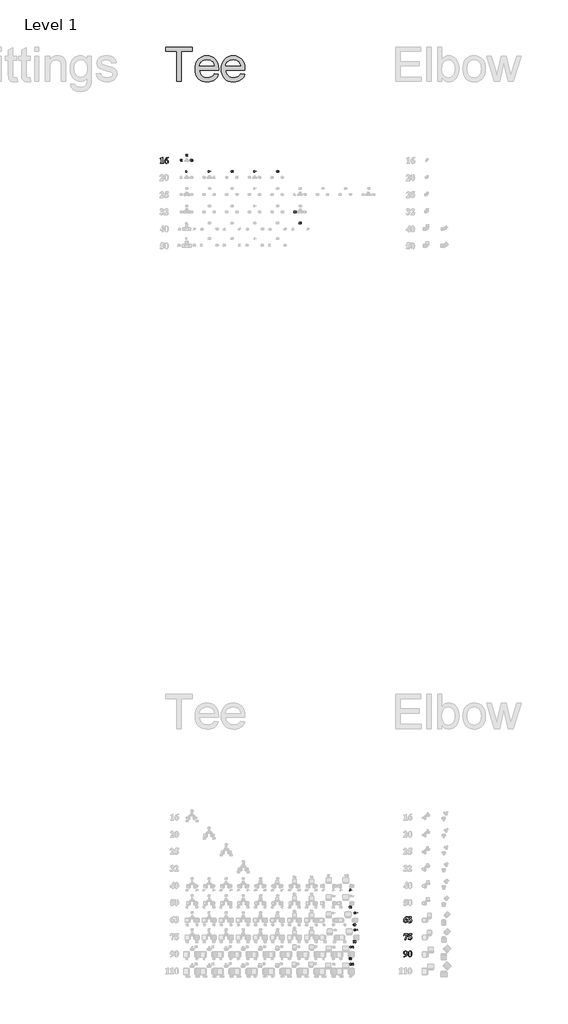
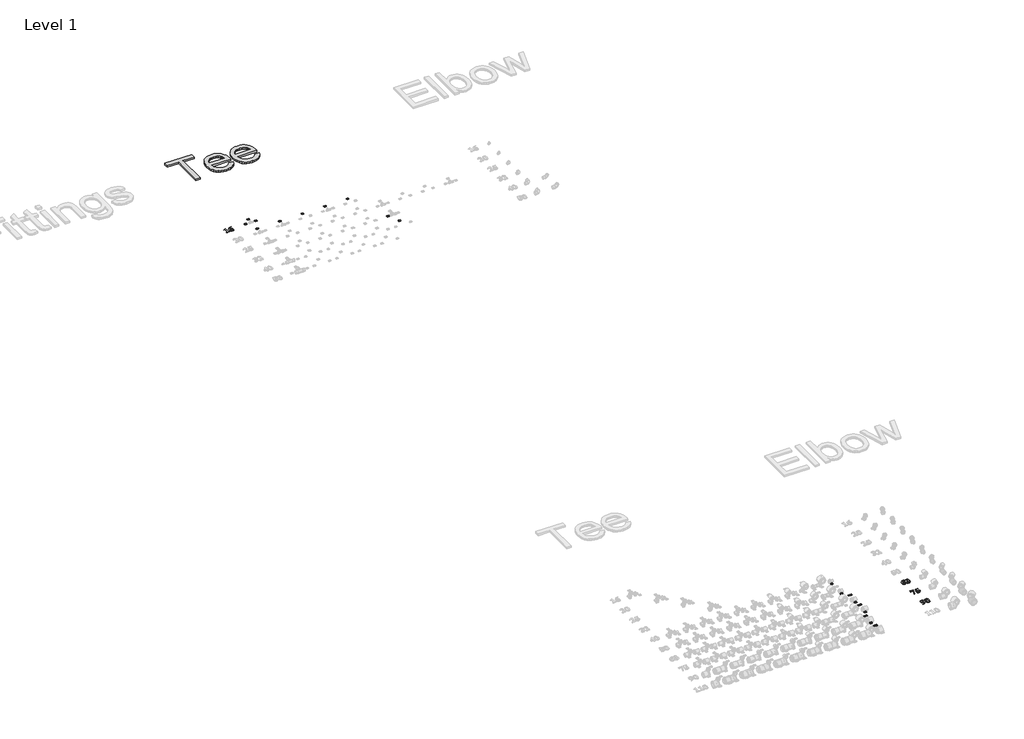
# One storey, part 30 of 57: 24 proxies.
"""IFC4 building model written with IfcOpenShell, lengths in millimetres."""

from ifc_helpers import new_model, si_unit, frame, origin, place, context, project, spatial, polyline, outline, extrude, element, save

model = new_model("IFC4")

# Units and contexts
model_context = context("Model", 3, world=origin())
ifc_project = project(units=[si_unit("LENGTHUNIT", "METRE", prefix="MILLI")], contexts=[model_context])

# Site, building, storey
site = spatial("IfcSite", under=ifc_project)
building = spatial("IfcBuilding", under=site)
storey = spatial("IfcBuildingStorey", under=building, Name="Level 1", Elevation=27.3876384)

# Proxies
placement = place(None, origin())
element("IfcBuildingElementProxy", 1, Name="100mm Arial", ObjectType="100mm Arial", at=placement, inside=storey, context=model_context, shape_type="SweptSolid", body=[
    extrude(outline(polyline([(12748.8058204, 30250.6719885), (12748.8058204, 30166.9155264), (12749.6646513, 30155.2190674), (12753.277194, 30151.0748674), (12762.0836189, 30149.4662635), (12764.510157, 30149.4662635), (12764.510157, 30145.9764109), (12708.6725157, 30145.9764109), (12708.6725157, 30149.4662635), (12711.4807564, 30149.4662635), (12721.1869089, 30150.9385451), (12725.0993608, 30154.9736871), (12726.1217786, 30166.9155264), (12726.1217786, 30219.2633152), (12725.4674312, 30227.9197855), (12723.0408931, 30230.9052453), (12718.9512221, 30232.1594111), (12709.9812104, 30229.732873), (12708.6725157, 30233.2227255), (12746.3247533, 30250.6719885), (12748.8058204, 30250.6719885)])), frame((0.0, 0.0, 27.3876384), z_axis=(0.0, 0.0, 1.0), x_axis=(1.0, 0.0, 0.0)), (0.0, 0.0, 1.0), 2.0),
    extrude(outline(polyline([(12850.0115453, 30250.6719885), (12850.0115453, 30248.9270622), (12827.9954831, 30239.8479926), (12814.8812715, 30226.3520783), (12807.424438, 30206.694393), (12812.9863906, 30209.229989), (12822.9651878, 30210.5386837), (12833.5881082, 30208.4836241), (12842.2820671, 30202.318445), (12848.0791758, 30192.6088845), (12850.0115453, 30179.9206802), (12845.7719197, 30161.6262186), (12833.748287, 30148.7710194), (12817.103326, 30144.2314846), (12799.299625, 30149.4117346), (12786.5398515, 30164.584414), (12781.9594199, 30186.300567), (12784.0621924, 30202.9284876), (12790.37051, 30218.2954264), (12800.5469746, 30231.5323282), (12814.2541886, 30241.7701379), (12830.9298221, 30248.3647324), (12850.0115453, 30250.6719885)]), holes=[polyline([(12806.388388, 30201.0779115), (12804.6434617, 30185.8915999), (12806.8382518, 30165.8385797), (12812.8500682, 30152.2472398), (12819.3117484, 30149.4662635), (12826.08697, 30153.4877733), (12829.0724298, 30169.8328251), (12827.7501029, 30187.3502492), (12823.783122, 30198.4605221), (12814.5949945, 30203.5589786), (12806.388388, 30201.0779115)])]), frame((0.0, 0.0, 27.3876384), z_axis=(0.0, 0.0, 1.0), x_axis=(1.0, 0.0, 0.0)), (0.0, 0.0, 1.0), 2.0),
])
element("IfcBuildingElementProxy", 2, Name="100mm Arial", ObjectType="100mm Arial", at=placement, inside=storey, context=model_context, shape_type="SweptSolid", body=[
    extrude(outline(polyline([(17051.4898622, 16910.8916255), (17051.4898622, 16909.1466992), (17029.4738, 16900.0676296), (17016.3595883, 16886.5717153), (17008.9027549, 16866.91403), (17014.4647074, 16869.4496261), (17024.4435047, 16870.7583208), (17035.0664251, 16868.7032611), (17043.760384, 16862.5380821), (17049.5574926, 16852.8285215), (17051.4898622, 16840.1403172), (17047.2502366, 16821.8458556), (17035.2266039, 16808.9906565), (17018.5816429, 16804.4511217), (17000.7779418, 16809.6313716), (16988.0181683, 16824.804051), (16983.4377368, 16846.520204), (16985.5405093, 16863.1481247), (16991.8488268, 16878.5150634), (17002.0252915, 16891.7519652), (17015.7325054, 16901.989775), (17032.4081389, 16908.5843694), (17051.4898622, 16910.8916255)]), holes=[polyline([(17007.8667049, 16861.2975485), (17006.1217786, 16846.1112369), (17008.3165687, 16826.0582168), (17014.3283851, 16812.4668768), (17020.7900652, 16809.6859006), (17027.5652869, 16813.7074104), (17030.5507467, 16830.0524621), (17029.2284197, 16847.5698862), (17025.2614389, 16858.6801591), (17016.0733114, 16863.7786156), (17007.8667049, 16861.2975485)])]), frame((0.0, 0.0, 27.3876384), z_axis=(0.0, 0.0, 1.0), x_axis=(1.0, 0.0, 0.0)), (0.0, 0.0, 1.0), 2.0),
    extrude(outline(polyline([(17077.6637566, 16862.0336893), (17077.6637566, 16863.7786156), (17090.0963564, 16868.5907951), (17096.0809083, 16875.379649), (17098.6028721, 16884.6359377), (17093.8997504, 16895.773475), (17082.1896591, 16900.4220677), (17072.1290685, 16897.9887135), (17063.7043462, 16890.6886508), (17061.9594199, 16891.6974363), (17076.3686941, 16906.0794459), (17095.9582182, 16910.8916255), (17106.0085846, 16909.4397923), (17114.1299896, 16905.0842927), (17119.4976828, 16898.7861993), (17121.2869139, 16891.506585), (17117.2790363, 16881.7322713), (17104.7101141, 16873.4575036), (17120.9324757, 16862.1700117), (17125.1243885, 16854.6109365), (17126.5216927, 16845.3478316), (17123.5294168, 16829.585558), (17114.552589, 16816.3793288), (17100.5522819, 16807.4331734), (17082.4895683, 16804.4511217), (17070.8885349, 16805.7325519), (17062.9136765, 16809.5768427), (17058.4695674, 16818.8740281), (17061.0460601, 16825.9491589), (17067.0033475, 16828.8800898), (17071.8564237, 16827.7895108), (17080.7173776, 16821.0551859), (17095.0039616, 16814.9206794), (17104.9282299, 16819.3784208), (17109.0724298, 16830.679545), (17107.0718991, 16840.6890148), (17101.0703069, 16849.8873665), (17091.2176079, 16857.3203435), (17077.6637566, 16862.0336893)])), frame((0.0, 0.0, 27.3876384), z_axis=(0.0, 0.0, 1.0), x_axis=(1.0, 0.0, 0.0)), (0.0, 0.0, 1.0), 2.0),
])
element("IfcBuildingElementProxy", 3, Name="100mm Arial", ObjectType="100mm Arial", at=placement, inside=storey, context=model_context, shape_type="SweptSolid", body=[
    extrude(outline(polyline([(17006.0945141, 16506.196048), (17034.5040953, 16588.2075837), (17012.8561035, 16588.2075837), (16993.7437077, 16584.8540535), (16986.3550354, 16575.9930996), (16983.4377368, 16575.9930996), (16990.935467, 16609.1466992), (17052.7167635, 16609.1466992), (17016.2914271, 16506.196048), (17006.0945141, 16506.196048)])), frame((0.0, 0.0, 27.3876384), z_axis=(0.0, 0.0, 1.0), x_axis=(1.0, 0.0, 0.0)), (0.0, 0.0, 1.0), 2.0),
    extrude(outline(polyline([(17081.1536091, 16609.1466992), (17130.0115453, 16609.1466992), (17123.0318402, 16588.2075837), (17078.7543355, 16588.2075837), (17075.5643921, 16579.4829522), (17099.8570378, 16575.7068227), (17117.8243258, 16566.3414761), (17126.9647404, 16555.0880647), (17130.0115453, 16541.394483), (17124.3132704, 16522.6910543), (17108.5953015, 16509.0042887), (17086.6065038, 16504.4511217), (17066.7852317, 16509.249669), (17061.9594199, 16516.9655149), (17064.4813837, 16522.8410089), (17070.3568777, 16525.3902372), (17076.4913842, 16524.0815425), (17087.1245288, 16517.1836307), (17095.3038708, 16512.4123479), (17100.729501, 16511.4308268), (17111.5807614, 16515.9976261), (17116.052135, 16526.9715766), (17112.6577081, 16539.0088416), (17102.4744273, 16548.5650395), (17087.1177127, 16554.8017878), (17068.2029843, 16556.8807039), (17061.9594199, 16556.7989104), (17081.1536091, 16609.1466992)])), frame((0.0, 0.0, 27.3876384), z_axis=(0.0, 0.0, 1.0), x_axis=(1.0, 0.0, 0.0)), (0.0, 0.0, 1.0), 2.0),
])
element("IfcBuildingElementProxy", 4, Name="100mm Arial", ObjectType="100mm Arial", at=placement, inside=storey, context=model_context, shape_type="SweptSolid", body=[
    extrude(outline(polyline([(16983.4377368, 16204.4511217), (16983.4377368, 16206.196048), (17005.6310181, 16214.8116215), (17020.0675567, 16228.9073542), (17027.5243901, 16248.2378658), (17019.1678291, 16245.3887284), (17011.9018469, 16244.5844264), (17000.7097806, 16246.6394861), (16991.5625498, 16252.8046651), (16985.4689401, 16262.5483062), (16983.4377368, 16275.3387523), (16987.7046269, 16293.524156), (16999.8918464, 16306.3384584), (17016.3459561, 16310.8916255), (17033.6588966, 16305.7659045), (17046.6504182, 16290.9203988), (17051.4898622, 16268.7407497), (17049.5268201, 16252.9614358), (17043.6376939, 16237.8501015), (17033.8599721, 16224.5348143), (17020.2311435, 16214.1436419), (17003.2556008, 16207.2559544), (16983.4377368, 16204.4511217)]), holes=[polyline([(17028.8058204, 16253.9634052), (17028.8058204, 16268.7952787), (17025.3159678, 16294.3420902), (17019.454106, 16303.9937137), (17014.0557403, 16305.6568466), (17007.5940601, 16302.4123743), (17004.3768523, 16285.4538719), (17005.7877888, 16267.834206), (17010.0205983, 16256.6898525), (17019.972131, 16251.5641316), (17028.8058204, 16253.9634052)])]), frame((0.0, 0.0, 27.3876384), z_axis=(0.0, 0.0, 1.0), x_axis=(1.0, 0.0, 0.0)), (0.0, 0.0, 1.0), 2.0),
    extrude(outline(polyline([(17130.0115453, 16257.6713736), (17125.5674362, 16229.0982056), (17118.4514086, 16215.7658781), (17108.3090246, 16207.5047427), (17095.9582182, 16204.4511217), (17082.1760269, 16208.213619), (17071.2838698, 16219.0103504), (17065.3129502, 16232.6425871), (17061.9594199, 16256.4717368), (17066.7852317, 16287.0624758), (17071.7746303, 16297.2491647), (17078.8361289, 16304.7434868), (17095.9582182, 16310.8916255), (17113.0939396, 16304.8252802), (17124.8040309, 16288.5074929), (17130.0115453, 16257.6713736)]), holes=[polyline([(17107.3275035, 16257.6713736), (17106.9730654, 16289.0255179), (17102.8561299, 16303.2303085), (17095.9036892, 16305.6568466), (17090.0690919, 16303.8301269), (17085.7613051, 16294.505677), (17084.6434617, 16247.8561632), (17086.3611236, 16218.6831767), (17090.0554597, 16211.498988), (17096.4217142, 16209.6859006), (17102.8561299, 16212.1124387), (17106.9730654, 16225.1721214), (17107.3275035, 16257.6713736)])]), frame((0.0, 0.0, 27.3876384), z_axis=(0.0, 0.0, 1.0), x_axis=(1.0, 0.0, 0.0)), (0.0, 0.0, 1.0), 2.0),
])
element("IfcBuildingElementProxy", 5, Name="30mm Arial", ObjectType="30mm Arial", at=placement, inside=storey, context=model_context, shape_type="SweptSolid", body=[
    extrude(outline(polyline([(16038.0336573, 17362.5788539), (16038.0336573, 17368.8947455), (16026.3735498, 17368.8947455), (16026.3735498, 17373.7303499), (16038.8079613, 17392.7007981), (16043.863711, 17392.7007981), (16043.863711, 17373.7531236), (16047.7504134, 17373.7531236), (16047.7504134, 17368.8947455), (16043.863711, 17368.8947455), (16043.863711, 17362.5788539), (16038.0336573, 17362.5788539)]), holes=[polyline([(16038.0336573, 17373.7531236), (16038.0336573, 17383.6976162), (16031.5203941, 17373.7531236), (16038.0336573, 17373.7531236)])]), frame((0.0, 0.0, 27.3876384), z_axis=(0.0, 0.0, 1.0), x_axis=(1.0, 0.0, 0.0)), (0.0, 0.0, 1.0), 2.0),
    extrude(outline(polyline([(16060.3821965, 17393.1866359), (16067.1763346, 17390.0286902), (16070.0989527, 17377.6322348), (16067.1611522, 17365.2054146), (16060.3821965, 17362.0930161), (16053.3413439, 17365.5090632), (16050.6654403, 17377.6929645), (16053.6032408, 17390.0742375), (16060.3821965, 17393.1866359)]), holes=[polyline([(16060.3821965, 17387.84242), (16058.4388453, 17387.2009623), (16057.1179737, 17384.8970283), (16056.495494, 17377.6322348), (16057.0496528, 17370.6141558), (16058.4502321, 17368.0710985), (16060.3821965, 17367.437232), (16062.3255477, 17368.0786898), (16063.6464193, 17370.3826237), (16064.268899, 17377.6322348), (16063.7147402, 17384.6465182), (16062.3141609, 17387.2009623), (16060.3821965, 17387.84242)])]), frame((0.0, 0.0, 27.3876384), z_axis=(0.0, 0.0, 1.0), x_axis=(1.0, 0.0, 0.0)), (0.0, 0.0, 1.0), 2.0),
])
element("IfcBuildingElementProxy", 6, Name="30mm Arial", ObjectType="30mm Arial", at=placement, inside=storey, context=model_context, shape_type="SweptSolid", body=[
    extrude(outline(polyline([(16027.3452254, 17071.1948838), (16032.6894414, 17071.8097723), (16034.1773196, 17068.6138705), (16037.0316168, 17067.437232), (16040.1554021, 17068.685987), (16041.4345219, 17072.4474344), (16040.2464967, 17075.9773498), (16037.1530762, 17077.1539882), (16032.886813, 17074.7247992), (16027.8310633, 17075.4763295), (16031.2319279, 17092.7007981), (16045.8070622, 17092.7007981), (16045.8070622, 17086.8707444), (16035.9460729, 17086.8707444), (16034.7694345, 17081.3063832), (16038.5270863, 17082.4982041), (16044.7215184, 17079.7387972), (16047.2645756, 17072.5764851), (16045.1466264, 17066.0252659), (16037.1227114, 17062.0930161), (16030.4386459, 17064.5601612), (16027.3452254, 17071.1948838)])), frame((0.0, 0.0, 27.3876384), z_axis=(0.0, 0.0, 1.0), x_axis=(1.0, 0.0, 0.0)), (0.0, 0.0, 1.0), 2.0),
    extrude(outline(polyline([(16060.3821965, 17093.1866359), (16067.1763346, 17090.0286902), (16070.0989527, 17077.6322348), (16067.1611522, 17065.2054146), (16060.3821965, 17062.0930161), (16053.3413439, 17065.5090632), (16050.6654403, 17077.6929645), (16053.6032408, 17090.0742375), (16060.3821965, 17093.1866359)]), holes=[polyline([(16060.3821965, 17087.84242), (16058.4388453, 17087.2009623), (16057.1179737, 17084.8970283), (16056.495494, 17077.6322348), (16057.0496528, 17070.6141558), (16058.4502321, 17068.0710985), (16060.3821965, 17067.437232), (16062.3255477, 17068.0786898), (16063.6464193, 17070.3826237), (16064.268899, 17077.6322348), (16063.7147402, 17084.6465182), (16062.3141609, 17087.2009623), (16060.3821965, 17087.84242)])]), frame((0.0, 0.0, 27.3876384), z_axis=(0.0, 0.0, 1.0), x_axis=(1.0, 0.0, 0.0)), (0.0, 0.0, 1.0), 2.0),
])
element("IfcBuildingElementProxy", 7, Name="30mm Arial", ObjectType="30mm Arial", at=placement, inside=storey, context=model_context, shape_type="SweptSolid", body=[
    extrude(outline(polyline([(16116.2929, 16775.0640351), (16110.4628463, 16774.4415554), (16109.430441, 16777.0111819), (16107.2593532, 16777.84242), (16104.2684142, 16776.2292867), (16102.7273974, 16769.4541266), (16108.0564309, 16772.0123663), (16114.2167025, 16769.2795286), (16116.7787378, 16762.2272892), (16114.1597684, 16754.8676055), (16107.42636, 16752.0930161), (16100.1843401, 16755.67607), (16097.3452254, 16767.4196808), (16100.3095952, 16779.4897138), (16108.0108836, 16783.1866359), (16113.514515, 16781.1066428), (16116.2929, 16775.0640351)]), holes=[polyline([(16103.1752792, 16762.3563398), (16104.435421, 16758.7163519), (16107.3124918, 16757.437232), (16109.9086876, 16758.4848198), (16110.9486841, 16761.9236405), (16109.8289798, 16765.5256724), (16107.0316168, 16766.6681504), (16104.2949835, 16765.5750153), (16103.1752792, 16762.3563398)])]), frame((0.0, 0.0, 27.3876384), z_axis=(0.0, 0.0, 1.0), x_axis=(1.0, 0.0, 0.0)), (0.0, 0.0, 1.0), 2.0),
    extrude(outline(polyline([(16120.6654403, 16761.1341541), (16126.495494, 16761.8097723), (16127.8087743, 16758.560732), (16130.3973789, 16757.437232), (16133.1529903, 16758.7239431), (16134.268899, 16762.1893331), (16133.2478804, 16765.4611471), (16130.7541661, 16766.6681504), (16128.4388453, 16766.2354511), (16128.9474567, 16771.0406907), (16131.8207319, 16771.9971839), (16132.8113855, 16774.6996567), (16132.071242, 16776.9884083), (16130.1013215, 16777.84242), (16128.025124, 16776.8517664), (16126.9813318, 16773.9557175), (16121.1512781, 16774.8287074), (16122.7568202, 16779.4631446), (16125.7553505, 16782.1921867), (16130.0633654, 16783.1866359), (16136.6069934, 16780.4310246), (16138.6414393, 16775.3297276), (16134.2764902, 16768.8999678), (16138.5123886, 16766.3986622), (16140.0989527, 16761.7034953), (16137.2864072, 16754.9055616), (16130.2835107, 16752.0930161), (16123.698131, 16754.5943217), (16120.6654403, 16761.1341541)])), frame((0.0, 0.0, 27.3876384), z_axis=(0.0, 0.0, 1.0), x_axis=(1.0, 0.0, 0.0)), (0.0, 0.0, 1.0), 2.0),
])
element("IfcBuildingElementProxy", 8, Name="30mm Arial", ObjectType="30mm Arial", at=placement, inside=storey, context=model_context, shape_type="SweptSolid", body=[
    extrude(outline(polyline([(16121.9389426, 16959.8803264), (16116.1088889, 16959.8803264), (16116.1088889, 16981.7582103), (16108.8213218, 16976.8846498), (16108.8213218, 16982.7147035), (16113.6872911, 16985.5727962), (16117.2931186, 16990.4881084), (16121.9389426, 16990.4881084), (16121.9389426, 16959.8803264)])), frame((0.0, 0.0, 27.3876384), z_axis=(0.0, 0.0, 1.0), x_axis=(1.0, 0.0, 0.0)), (0.0, 0.0, 1.0), 2.0),
    extrude(outline(polyline([(16145.2591575, 16959.8803264), (16139.4291038, 16959.8803264), (16139.4291038, 16981.7582103), (16132.1415366, 16976.8846498), (16132.1415366, 16982.7147035), (16137.007506, 16985.5727962), (16140.6133335, 16990.4881084), (16145.2591575, 16990.4881084), (16145.2591575, 16959.8803264)])), frame((0.0, 0.0, 27.3876384), z_axis=(0.0, 0.0, 1.0), x_axis=(1.0, 0.0, 0.0)), (0.0, 0.0, 1.0), 2.0),
    extrude(outline(polyline([(16163.7209943, 16990.4881084), (16170.5151324, 16987.3301627), (16173.4377505, 16974.9337073), (16170.49995, 16962.5068871), (16163.7209943, 16959.3944886), (16156.6801416, 16962.8105357), (16154.0042381, 16974.994437), (16156.9420386, 16987.37571), (16163.7209943, 16990.4881084)]), holes=[polyline([(16163.7209943, 16985.1438925), (16161.777643, 16984.5024348), (16160.4567715, 16982.1985008), (16159.8342918, 16974.9337073), (16160.3884505, 16967.9156283), (16161.7890299, 16965.372571), (16163.7209943, 16964.7387045), (16165.6643455, 16965.3801623), (16166.985217, 16967.6840962), (16167.6076967, 16974.9337073), (16167.053538, 16981.9479907), (16165.6529587, 16984.5024348), (16163.7209943, 16985.1438925)])]), frame((0.0, 0.0, 27.3876384), z_axis=(0.0, 0.0, 1.0), x_axis=(1.0, 0.0, 0.0)), (0.0, 0.0, 1.0), 2.0),
])
element("IfcBuildingElementProxy", 9, Name="30mm Arial", ObjectType="30mm Arial", at=placement, inside=storey, context=model_context, shape_type="SweptSolid", body=[
    extrude(outline(polyline([(16097.3452254, 16476.8707444), (16097.3452254, 16482.7007981), (16116.7787378, 16482.7007981), (16116.7787378, 16478.3282578), (16111.772331, 16471.3595218), (16107.8894242, 16461.7110865), (16106.5761438, 16452.5788539), (16100.7460901, 16452.5788539), (16103.4068112, 16465.2903447), (16110.1136504, 16476.8707444), (16097.3452254, 16476.8707444)])), frame((0.0, 0.0, 27.3876384), z_axis=(0.0, 0.0, 1.0), x_axis=(1.0, 0.0, 0.0)), (0.0, 0.0, 1.0), 2.0),
    extrude(outline(polyline([(16120.6654403, 16461.1948838), (16126.0096562, 16461.8097723), (16127.4975345, 16458.6138705), (16130.3518316, 16457.437232), (16133.4756169, 16458.685987), (16134.7547368, 16462.4474344), (16133.5667115, 16465.9773498), (16130.4732911, 16467.1539882), (16126.2070278, 16464.7247992), (16121.1512781, 16465.4763295), (16124.5521428, 16482.7007981), (16139.1272771, 16482.7007981), (16139.1272771, 16476.8707444), (16129.2662878, 16476.8707444), (16128.0896493, 16471.3063832), (16131.8473011, 16472.4982041), (16138.0417332, 16469.7387972), (16140.5847905, 16462.5764851), (16138.4668413, 16456.0252659), (16130.4429262, 16452.0930161), (16123.7588607, 16454.5601612), (16120.6654403, 16461.1948838)])), frame((0.0, 0.0, 27.3876384), z_axis=(0.0, 0.0, 1.0), x_axis=(1.0, 0.0, 0.0)), (0.0, 0.0, 1.0), 2.0),
])
element("IfcBuildingElementProxy", 10, Name="30mm Arial", ObjectType="30mm Arial", at=placement, inside=storey, context=model_context, shape_type="SweptSolid", body=[
    extrude(outline(polyline([(16121.9389426, 16659.8803264), (16116.1088889, 16659.8803264), (16116.1088889, 16681.7582103), (16108.8213218, 16676.8846498), (16108.8213218, 16682.7147035), (16113.6872911, 16685.5727962), (16117.2931186, 16690.4881084), (16121.9389426, 16690.4881084), (16121.9389426, 16659.8803264)])), frame((0.0, 0.0, 27.3876384), z_axis=(0.0, 0.0, 1.0), x_axis=(1.0, 0.0, 0.0)), (0.0, 0.0, 1.0), 2.0),
    extrude(outline(polyline([(16145.2591575, 16659.8803264), (16139.4291038, 16659.8803264), (16139.4291038, 16681.7582103), (16132.1415366, 16676.8846498), (16132.1415366, 16682.7147035), (16137.007506, 16685.5727962), (16140.6133335, 16690.4881084), (16145.2591575, 16690.4881084), (16145.2591575, 16659.8803264)])), frame((0.0, 0.0, 27.3876384), z_axis=(0.0, 0.0, 1.0), x_axis=(1.0, 0.0, 0.0)), (0.0, 0.0, 1.0), 2.0),
    extrude(outline(polyline([(16163.7209943, 16690.4881084), (16170.5151324, 16687.3301627), (16173.4377505, 16674.9337073), (16170.49995, 16662.5068871), (16163.7209943, 16659.3944886), (16156.6801416, 16662.8105357), (16154.0042381, 16674.994437), (16156.9420386, 16687.37571), (16163.7209943, 16690.4881084)]), holes=[polyline([(16163.7209943, 16685.1438925), (16161.777643, 16684.5024348), (16160.4567715, 16682.1985008), (16159.8342918, 16674.9337073), (16160.3884505, 16667.9156283), (16161.7890299, 16665.372571), (16163.7209943, 16664.7387045), (16165.6643455, 16665.3801623), (16166.985217, 16667.6840962), (16167.6076967, 16674.9337073), (16167.053538, 16681.9479907), (16165.6529587, 16684.5024348), (16163.7209943, 16685.1438925)])]), frame((0.0, 0.0, 27.3876384), z_axis=(0.0, 0.0, 1.0), x_axis=(1.0, 0.0, 0.0)), (0.0, 0.0, 1.0), 2.0),
])
element("IfcBuildingElementProxy", 11, Name="30mm Arial", ObjectType="30mm Arial", at=placement, inside=storey, context=model_context, shape_type="SweptSolid", body=[
    extrude(outline(polyline([(16027.8310633, 16165.215617), (16033.661117, 16165.8380967), (16034.6973179, 16163.2722658), (16036.9101573, 16162.437232), (16039.855549, 16164.0503654), (16041.4117483, 16170.8027518), (16035.9992114, 16168.2672857), (16029.9072608, 16170.9887366), (16027.3452254, 16178.0751365), (16029.9755817, 16185.4044553), (16036.6748296, 16188.1866359), (16043.9396231, 16184.6073777), (16046.7787378, 16172.8296064), (16043.8105725, 16160.7861426), (16036.0827148, 16157.0930161), (16030.5411273, 16159.1274619), (16027.8310633, 16165.215617)]), holes=[polyline([(16040.9486841, 16177.9384946), (16039.6961335, 16181.555709), (16036.8038803, 16182.84242), (16034.2076845, 16181.787241), (16033.1752792, 16178.3332379), (16034.2987791, 16174.7539796), (16037.0999377, 16173.6115016), (16039.836571, 16174.7084323), (16040.9486841, 16177.9384946)])]), frame((0.0, 0.0, 27.3876384), z_axis=(0.0, 0.0, 1.0), x_axis=(1.0, 0.0, 0.0)), (0.0, 0.0, 1.0), 2.0),
    extrude(outline(polyline([(16060.3821965, 16188.1866359), (16067.1763346, 16185.0286902), (16070.0989527, 16172.6322348), (16067.1611522, 16160.2054146), (16060.3821965, 16157.0930161), (16053.3413439, 16160.5090632), (16050.6654403, 16172.6929645), (16053.6032408, 16185.0742375), (16060.3821965, 16188.1866359)]), holes=[polyline([(16060.3821965, 16182.84242), (16058.4388453, 16182.2009623), (16057.1179737, 16179.8970283), (16056.495494, 16172.6322348), (16057.0496528, 16165.6141558), (16058.4502321, 16163.0710985), (16060.3821965, 16162.437232), (16062.3255477, 16163.0786898), (16063.6464193, 16165.3826237), (16064.268899, 16172.6322348), (16063.7147402, 16179.6465182), (16062.3141609, 16182.2009623), (16060.3821965, 16182.84242)])]), frame((0.0, 0.0, 27.3876384), z_axis=(0.0, 0.0, 1.0), x_axis=(1.0, 0.0, 0.0)), (0.0, 0.0, 1.0), 2.0),
])
element("IfcBuildingElementProxy", 12, Name="30mm Arial", ObjectType="30mm Arial", at=placement, inside=storey, context=model_context, shape_type="SweptSolid", body=[
    extrude(outline(polyline([(16051.9389426, 16359.8803264), (16046.1088889, 16359.8803264), (16046.1088889, 16381.7582103), (16038.8213218, 16376.8846498), (16038.8213218, 16382.7147035), (16043.6872911, 16385.5727962), (16047.2931186, 16390.4881084), (16051.9389426, 16390.4881084), (16051.9389426, 16359.8803264)])), frame((0.0, 0.0, 27.3876384), z_axis=(0.0, 0.0, 1.0), x_axis=(1.0, 0.0, 0.0)), (0.0, 0.0, 1.0), 2.0),
    extrude(outline(polyline([(16075.2591575, 16359.8803264), (16069.4291038, 16359.8803264), (16069.4291038, 16381.7582103), (16062.1415366, 16376.8846498), (16062.1415366, 16382.7147035), (16067.007506, 16385.5727962), (16070.6133335, 16390.4881084), (16075.2591575, 16390.4881084), (16075.2591575, 16359.8803264)])), frame((0.0, 0.0, 27.3876384), z_axis=(0.0, 0.0, 1.0), x_axis=(1.0, 0.0, 0.0)), (0.0, 0.0, 1.0), 2.0),
    extrude(outline(polyline([(16093.7209943, 16390.4881084), (16100.5151324, 16387.3301627), (16103.4377505, 16374.9337073), (16100.49995, 16362.5068871), (16093.7209943, 16359.3944886), (16086.6801416, 16362.8105357), (16084.0042381, 16374.994437), (16086.9420386, 16387.37571), (16093.7209943, 16390.4881084)]), holes=[polyline([(16093.7209943, 16385.1438925), (16091.777643, 16384.5024348), (16090.4567715, 16382.1985008), (16089.8342918, 16374.9337073), (16090.3884505, 16367.9156283), (16091.7890299, 16365.372571), (16093.7209943, 16364.7387045), (16095.6643455, 16365.3801623), (16096.985217, 16367.6840962), (16097.6076967, 16374.9337073), (16097.053538, 16381.9479907), (16095.6529587, 16384.5024348), (16093.7209943, 16385.1438925)])]), frame((0.0, 0.0, 27.3876384), z_axis=(0.0, 0.0, 1.0), x_axis=(1.0, 0.0, 0.0)), (0.0, 0.0, 1.0), 2.0),
])
element("IfcBuildingElementProxy", 13, Name="30mm Arial", ObjectType="30mm Arial", at=placement, inside=storey, context=model_context, shape_type="SweptSolid", body=[
    extrude(outline(polyline([(16051.9389426, 16059.8803264), (16046.1088889, 16059.8803264), (16046.1088889, 16081.7582103), (16038.8213218, 16076.8846498), (16038.8213218, 16082.7147035), (16043.6872911, 16085.5727962), (16047.2931186, 16090.4881084), (16051.9389426, 16090.4881084), (16051.9389426, 16059.8803264)])), frame((0.0, 0.0, 27.3876384), z_axis=(0.0, 0.0, 1.0), x_axis=(1.0, 0.0, 0.0)), (0.0, 0.0, 1.0), 2.0),
    extrude(outline(polyline([(16075.2591575, 16059.8803264), (16069.4291038, 16059.8803264), (16069.4291038, 16081.7582103), (16062.1415366, 16076.8846498), (16062.1415366, 16082.7147035), (16067.007506, 16085.5727962), (16070.6133335, 16090.4881084), (16075.2591575, 16090.4881084), (16075.2591575, 16059.8803264)])), frame((0.0, 0.0, 27.3876384), z_axis=(0.0, 0.0, 1.0), x_axis=(1.0, 0.0, 0.0)), (0.0, 0.0, 1.0), 2.0),
    extrude(outline(polyline([(16093.7209943, 16090.4881084), (16100.5151324, 16087.3301627), (16103.4377505, 16074.9337073), (16100.49995, 16062.5068871), (16093.7209943, 16059.3944886), (16086.6801416, 16062.8105357), (16084.0042381, 16074.994437), (16086.9420386, 16087.37571), (16093.7209943, 16090.4881084)]), holes=[polyline([(16093.7209943, 16085.1438925), (16091.777643, 16084.5024348), (16090.4567715, 16082.1985008), (16089.8342918, 16074.9337073), (16090.3884505, 16067.9156283), (16091.7890299, 16065.372571), (16093.7209943, 16064.7387045), (16095.6643455, 16065.3801623), (16096.985217, 16067.6840962), (16097.6076967, 16074.9337073), (16097.053538, 16081.9479907), (16095.6529587, 16084.5024348), (16093.7209943, 16085.1438925)])]), frame((0.0, 0.0, 27.3876384), z_axis=(0.0, 0.0, 1.0), x_axis=(1.0, 0.0, 0.0)), (0.0, 0.0, 1.0), 2.0),
])
element("IfcBuildingElementProxy", 14, Name="30mm Arial", ObjectType="30mm Arial", at=placement, inside=storey, context=model_context, shape_type="SweptSolid", body=[
    extrude(outline(polyline([(13165.5079744, 30272.9987154), (13159.6779207, 30272.9987154), (13159.6779207, 30294.8765993), (13152.3903535, 30290.0030387), (13152.3903535, 30295.8330925), (13157.2563228, 30298.6911852), (13160.8621503, 30303.6064974), (13165.5079744, 30303.6064974), (13165.5079744, 30272.9987154)])), frame((0.0, 0.0, 27.3876384), z_axis=(0.0, 0.0, 1.0), x_axis=(1.0, 0.0, 0.0)), (0.0, 0.0, 1.0), 2.0),
    extrude(outline(polyline([(13193.2007295, 30295.4838965), (13187.3706758, 30294.8614168), (13186.3382705, 30297.4310434), (13184.1671828, 30298.2622815), (13181.1762438, 30296.6491482), (13179.6352269, 30289.8739881), (13184.9642604, 30292.4322278), (13191.124532, 30289.6993901), (13193.6865673, 30282.6471507), (13191.0675979, 30275.287467), (13184.3341895, 30272.5128776), (13177.0921697, 30276.0959314), (13174.253055, 30287.8395422), (13177.2174247, 30299.9095753), (13184.9187131, 30303.6064974), (13190.4223446, 30301.5265043), (13193.2007295, 30295.4838965)]), holes=[polyline([(13180.0831087, 30282.7762013), (13181.3432505, 30279.1362134), (13184.2203213, 30277.8570935), (13186.8165171, 30278.9046813), (13187.8565136, 30282.343502), (13186.7368093, 30285.9455339), (13183.9394463, 30287.0880119), (13181.202813, 30285.9948768), (13180.0831087, 30282.7762013)])]), frame((0.0, 0.0, 27.3876384), z_axis=(0.0, 0.0, 1.0), x_axis=(1.0, 0.0, 0.0)), (0.0, 0.0, 1.0), 2.0),
])
element("IfcBuildingElementProxy", 15, Name="30mm Arial", ObjectType="30mm Arial", at=placement, inside=storey, context=model_context, shape_type="SweptSolid", body=[
    extrude(outline(polyline([(13069.4128204, 30184.9764109), (13063.5827667, 30184.9764109), (13063.5827667, 30206.8542948), (13056.2951995, 30201.9807343), (13056.2951995, 30207.810788), (13061.1611688, 30210.6688807), (13064.7669963, 30215.5841929), (13069.4128204, 30215.5841929), (13069.4128204, 30184.9764109)])), frame((0.0, 0.0, 27.3876384), z_axis=(0.0, 0.0, 1.0), x_axis=(1.0, 0.0, 0.0)), (0.0, 0.0, 1.0), 2.0),
    extrude(outline(polyline([(13097.1055755, 30207.4615921), (13091.2755218, 30206.8391124), (13090.2431165, 30209.4087389), (13088.0720287, 30210.239977), (13085.0810897, 30208.6268437), (13083.5400729, 30201.8516836), (13088.8691064, 30204.4099233), (13095.029378, 30201.6770856), (13097.5914133, 30194.6248462), (13094.9724439, 30187.2651625), (13088.2390355, 30184.4905731), (13080.9970156, 30188.073627), (13078.1579009, 30199.8172378), (13081.1222707, 30211.8872709), (13088.8235591, 30215.5841929), (13094.3271905, 30213.5041998), (13097.1055755, 30207.4615921)]), holes=[polyline([(13083.9879547, 30194.7538969), (13085.2480965, 30191.1139089), (13088.1251673, 30189.834789), (13090.721363, 30190.8823768), (13091.7613596, 30194.3211976), (13090.6416553, 30197.9232294), (13087.8442923, 30199.0657074), (13085.107659, 30197.9725723), (13083.9879547, 30194.7538969)])]), frame((0.0, 0.0, 27.3876384), z_axis=(0.0, 0.0, 1.0), x_axis=(1.0, 0.0, 0.0)), (0.0, 0.0, 1.0), 2.0),
])
element("IfcBuildingElementProxy", 16, Name="30mm Arial", ObjectType="30mm Arial", at=placement, inside=storey, context=model_context, shape_type="SweptSolid", body=[
    extrude(outline(polyline([(13249.4128204, 30184.9764109), (13243.5827667, 30184.9764109), (13243.5827667, 30206.8542948), (13236.2951995, 30201.9807343), (13236.2951995, 30207.810788), (13241.1611688, 30210.6688807), (13244.7669963, 30215.5841929), (13249.4128204, 30215.5841929), (13249.4128204, 30184.9764109)])), frame((0.0, 0.0, 27.3876384), z_axis=(0.0, 0.0, 1.0), x_axis=(1.0, 0.0, 0.0)), (0.0, 0.0, 1.0), 2.0),
    extrude(outline(polyline([(13277.1055755, 30207.4615921), (13271.2755218, 30206.8391124), (13270.2431165, 30209.4087389), (13268.0720287, 30210.239977), (13265.0810897, 30208.6268437), (13263.5400729, 30201.8516836), (13268.8691064, 30204.4099233), (13275.029378, 30201.6770856), (13277.5914133, 30194.6248462), (13274.9724439, 30187.2651625), (13268.2390355, 30184.4905731), (13260.9970156, 30188.073627), (13258.1579009, 30199.8172378), (13261.1222707, 30211.8872709), (13268.8235591, 30215.5841929), (13274.3271905, 30213.5041998), (13277.1055755, 30207.4615921)]), holes=[polyline([(13263.9879547, 30194.7538969), (13265.2480965, 30191.1139089), (13268.1251673, 30189.834789), (13270.721363, 30190.8823768), (13271.7613596, 30194.3211976), (13270.6416553, 30197.9232294), (13267.8442923, 30199.0657074), (13265.107659, 30197.9725723), (13263.9879547, 30194.7538969)])]), frame((0.0, 0.0, 27.3876384), z_axis=(0.0, 0.0, 1.0), x_axis=(1.0, 0.0, 0.0)), (0.0, 0.0, 1.0), 2.0),
])
element("IfcBuildingElementProxy", 17, Name="30mm Arial", ObjectType="30mm Arial", at=placement, inside=storey, context=model_context, shape_type="SweptSolid", body=[
    extrude(outline(polyline([(13170.3663525, 29995.6569493), (13170.3663525, 29989.8268956), (13150.9328401, 29989.8268956), (13152.792688, 29995.5468767), (13158.9036167, 30002.71678), (13163.4127988, 30007.605523), (13164.5362988, 30011.1126647), (13163.5911924, 30014.061852), (13160.9836098, 30015.0904617), (13158.3722316, 30014.0770344), (13157.2487316, 30010.7179214), (13151.4186779, 30011.2493065), (13154.5462588, 30018.2977504), (13161.1126605, 30020.4346776), (13167.8992074, 30018.0396491), (13170.3663525, 30012.0843403), (13169.6907343, 30008.2280027), (13167.5500114, 30004.3944387), (13163.9252059, 30000.568466), (13160.5964578, 29997.2511047), (13159.5033227, 29995.6569493), (13170.3663525, 29995.6569493)])), frame((0.0, 0.0, 27.3876384), z_axis=(0.0, 0.0, 1.0), x_axis=(1.0, 0.0, 0.0)), (0.0, 0.0, 1.0), 2.0),
    extrude(outline(polyline([(13183.9698112, 30020.4346776), (13190.7639493, 30017.2767319), (13193.6865673, 30004.8802765), (13190.7487668, 29992.4534563), (13183.9698112, 29989.3410578), (13176.9289585, 29992.7571049), (13174.253055, 30004.9410062), (13177.1908555, 30017.3222792), (13183.9698112, 30020.4346776)]), holes=[polyline([(13183.9698112, 30015.0904617), (13182.0264599, 30014.449004), (13180.7055884, 30012.14507), (13180.0831087, 30004.8802765), (13180.6372674, 29997.8621975), (13182.0378467, 29995.3191402), (13183.9698112, 29994.6852737), (13185.9131624, 29995.3267315), (13187.2340339, 29997.6306654), (13187.8565136, 30004.8802765), (13187.3023549, 30011.8945599), (13185.9017756, 30014.449004), (13183.9698112, 30015.0904617)])]), frame((0.0, 0.0, 27.3876384), z_axis=(0.0, 0.0, 1.0), x_axis=(1.0, 0.0, 0.0)), (0.0, 0.0, 1.0), 2.0),
])
element("IfcBuildingElementProxy", 18, Name="30mm Arial", ObjectType="30mm Arial", at=placement, inside=storey, context=model_context, shape_type="SweptSolid", body=[
    extrude(outline(polyline([(13569.1163525, 29995.6569493), (13569.1163525, 29989.8268956), (13549.6828401, 29989.8268956), (13551.542688, 29995.5468767), (13557.6536167, 30002.71678), (13562.1627988, 30007.605523), (13563.2862988, 30011.1126647), (13562.3411924, 30014.061852), (13559.7336098, 30015.0904617), (13557.1222316, 30014.0770344), (13555.9987316, 30010.7179214), (13550.1686779, 30011.2493065), (13553.2962588, 30018.2977504), (13559.8626605, 30020.4346776), (13566.6492074, 30018.0396491), (13569.1163525, 30012.0843403), (13568.4407343, 30008.2280027), (13566.3000114, 30004.3944387), (13562.6752059, 30000.568466), (13559.3464578, 29997.2511047), (13558.2533227, 29995.6569493), (13569.1163525, 29995.6569493)])), frame((0.0, 0.0, 27.3876384), z_axis=(0.0, 0.0, 1.0), x_axis=(1.0, 0.0, 0.0)), (0.0, 0.0, 1.0), 2.0),
    extrude(outline(polyline([(13582.7198112, 30020.4346776), (13589.5139493, 30017.2767319), (13592.4365673, 30004.8802765), (13589.4987668, 29992.4534563), (13582.7198112, 29989.3410578), (13575.6789585, 29992.7571049), (13573.003055, 30004.9410062), (13575.9408555, 30017.3222792), (13582.7198112, 30020.4346776)]), holes=[polyline([(13582.7198112, 30015.0904617), (13580.7764599, 30014.449004), (13579.4555884, 30012.14507), (13578.8331087, 30004.8802765), (13579.3872674, 29997.8621975), (13580.7878467, 29995.3191402), (13582.7198112, 29994.6852737), (13584.6631624, 29995.3267315), (13585.9840339, 29997.6306654), (13586.6065136, 30004.8802765), (13586.0523549, 30011.8945599), (13584.6517756, 30014.449004), (13582.7198112, 30015.0904617)])]), frame((0.0, 0.0, 27.3876384), z_axis=(0.0, 0.0, 1.0), x_axis=(1.0, 0.0, 0.0)), (0.0, 0.0, 1.0), 2.0),
])
element("IfcBuildingElementProxy", 19, Name="30mm Arial", ObjectType="30mm Arial", at=placement, inside=storey, context=model_context, shape_type="SweptSolid", body=[
    extrude(outline(polyline([(13963.0079744, 29989.8268956), (13957.1779207, 29989.8268956), (13957.1779207, 30011.7047795), (13949.8903535, 30006.831219), (13949.8903535, 30012.6612727), (13954.7563228, 30015.5193654), (13958.3621503, 30020.4346776), (13963.0079744, 30020.4346776), (13963.0079744, 29989.8268956)])), frame((0.0, 0.0, 27.3876384), z_axis=(0.0, 0.0, 1.0), x_axis=(1.0, 0.0, 0.0)), (0.0, 0.0, 1.0), 2.0),
    extrude(outline(polyline([(13990.7007295, 30012.3120768), (13984.8706758, 30011.6895971), (13983.8382705, 30014.2592236), (13981.6671828, 30015.0904617), (13978.6762438, 30013.4773284), (13977.1352269, 30006.7021683), (13982.4642604, 30009.260408), (13988.624532, 30006.5275703), (13991.1865673, 29999.4753309), (13988.5675979, 29992.1156472), (13981.8341895, 29989.3410578), (13974.5921697, 29992.9241117), (13971.753055, 30004.6677225), (13974.7174247, 30016.7377555), (13982.4187131, 30020.4346776), (13987.9223446, 30018.3546845), (13990.7007295, 30012.3120768)]), holes=[polyline([(13977.5831087, 29999.6043815), (13978.8432505, 29995.9643936), (13981.7203213, 29994.6852737), (13984.3165171, 29995.7328615), (13985.3565136, 29999.1716822), (13984.2368093, 30002.7737141), (13981.4394463, 30003.9161921), (13978.702813, 30002.823057), (13977.5831087, 29999.6043815)])]), frame((0.0, 0.0, 27.3876384), z_axis=(0.0, 0.0, 1.0), x_axis=(1.0, 0.0, 0.0)), (0.0, 0.0, 1.0), 2.0),
])
element("IfcBuildingElementProxy", 20, Name="30mm Arial", ObjectType="30mm Arial", at=placement, inside=storey, context=model_context, shape_type="SweptSolid", body=[
    extrude(outline(polyline([(14366.6163525, 29995.6569493), (14366.6163525, 29989.8268956), (14347.1828401, 29989.8268956), (14349.042688, 29995.5468767), (14355.1536167, 30002.71678), (14359.6627988, 30007.605523), (14360.7862988, 30011.1126647), (14359.8411924, 30014.061852), (14357.2336098, 30015.0904617), (14354.6222316, 30014.0770344), (14353.4987316, 30010.7179214), (14347.6686779, 30011.2493065), (14350.7962588, 30018.2977504), (14357.3626605, 30020.4346776), (14364.1492074, 30018.0396491), (14366.6163525, 30012.0843403), (14365.9407343, 30008.2280027), (14363.8000114, 30004.3944387), (14360.1752059, 30000.568466), (14356.8464578, 29997.2511047), (14355.7533227, 29995.6569493), (14366.6163525, 29995.6569493)])), frame((0.0, 0.0, 27.3876384), z_axis=(0.0, 0.0, 1.0), x_axis=(1.0, 0.0, 0.0)), (0.0, 0.0, 1.0), 2.0),
    extrude(outline(polyline([(14380.2198112, 30020.4346776), (14387.0139493, 30017.2767319), (14389.9365673, 30004.8802765), (14386.9987668, 29992.4534563), (14380.2198112, 29989.3410578), (14373.1789585, 29992.7571049), (14370.503055, 30004.9410062), (14373.4408555, 30017.3222792), (14380.2198112, 30020.4346776)]), holes=[polyline([(14380.2198112, 30015.0904617), (14378.2764599, 30014.449004), (14376.9555884, 30012.14507), (14376.3331087, 30004.8802765), (14376.8872674, 29997.8621975), (14378.2878467, 29995.3191402), (14380.2198112, 29994.6852737), (14382.1631624, 29995.3267315), (14383.4840339, 29997.6306654), (14384.1065136, 30004.8802765), (14383.5523549, 30011.8945599), (14382.1517756, 30014.449004), (14380.2198112, 30015.0904617)])]), frame((0.0, 0.0, 27.3876384), z_axis=(0.0, 0.0, 1.0), x_axis=(1.0, 0.0, 0.0)), (0.0, 0.0, 1.0), 2.0),
])
element("IfcBuildingElementProxy", 21, Name="30mm Arial", ObjectType="30mm Arial", at=placement, inside=storey, context=model_context, shape_type="SweptSolid", body=[
    extrude(outline(polyline([(14760.5079744, 29989.8268956), (14754.6779207, 29989.8268956), (14754.6779207, 30011.7047795), (14747.3903535, 30006.831219), (14747.3903535, 30012.6612727), (14752.2563228, 30015.5193654), (14755.8621503, 30020.4346776), (14760.5079744, 30020.4346776), (14760.5079744, 29989.8268956)])), frame((0.0, 0.0, 27.3876384), z_axis=(0.0, 0.0, 1.0), x_axis=(1.0, 0.0, 0.0)), (0.0, 0.0, 1.0), 2.0),
    extrude(outline(polyline([(14788.2007295, 30012.3120768), (14782.3706758, 30011.6895971), (14781.3382705, 30014.2592236), (14779.1671828, 30015.0904617), (14776.1762438, 30013.4773284), (14774.6352269, 30006.7021683), (14779.9642604, 30009.260408), (14786.124532, 30006.5275703), (14788.6865673, 29999.4753309), (14786.0675979, 29992.1156472), (14779.3341895, 29989.3410578), (14772.0921697, 29992.9241117), (14769.253055, 30004.6677225), (14772.2174247, 30016.7377555), (14779.9187131, 30020.4346776), (14785.4223446, 30018.3546845), (14788.2007295, 30012.3120768)]), holes=[polyline([(14775.0831087, 29999.6043815), (14776.3432505, 29995.9643936), (14779.2203213, 29994.6852737), (14781.8165171, 29995.7328615), (14782.8565136, 29999.1716822), (14781.7368093, 30002.7737141), (14778.9394463, 30003.9161921), (14776.202813, 30002.823057), (14775.0831087, 29999.6043815)])]), frame((0.0, 0.0, 27.3876384), z_axis=(0.0, 0.0, 1.0), x_axis=(1.0, 0.0, 0.0)), (0.0, 0.0, 1.0), 2.0),
])
element("IfcBuildingElementProxy", 22, Name="30mm Arial", ObjectType="30mm Arial", at=placement, inside=storey, context=model_context, shape_type="SweptSolid", body=[
    extrude(outline(polyline([(15071.0731821, 29285.5388791), (15071.0731821, 29279.7088254), (15051.6396698, 29279.7088254), (15053.4995176, 29285.4288065), (15059.6104463, 29292.5987098), (15064.1196285, 29297.4874528), (15065.2431284, 29300.9945944), (15064.2980221, 29303.9437818), (15061.6904394, 29304.9723915), (15059.0790612, 29303.9589642), (15057.9555613, 29300.5998512), (15052.1255076, 29301.1312363), (15055.2530885, 29308.1796802), (15061.8194901, 29310.3166074), (15068.606037, 29307.9215788), (15071.0731821, 29301.9662701), (15070.3975639, 29298.1099324), (15068.2568411, 29294.2763685), (15064.6320356, 29290.4503957), (15061.3032874, 29287.1330344), (15060.2101524, 29285.5388791), (15071.0731821, 29285.5388791)])), frame((0.0, 0.0, 27.3876384), z_axis=(0.0, 0.0, 1.0), x_axis=(1.0, 0.0, 0.0)), (0.0, 0.0, 1.0), 2.0),
    extrude(outline(polyline([(15074.9598846, 29288.3248553), (15080.3041005, 29288.9397438), (15081.7919788, 29285.743842), (15084.6462759, 29284.5672035), (15087.7700612, 29285.8159585), (15089.0491811, 29289.5774059), (15087.8611558, 29293.1073213), (15084.7677354, 29294.2839597), (15080.5014721, 29291.8547707), (15075.4457224, 29292.606301), (15078.8465871, 29309.8307696), (15093.4217214, 29309.8307696), (15093.4217214, 29304.0007159), (15083.5607321, 29304.0007159), (15082.3840936, 29298.4363547), (15086.1417455, 29299.6281756), (15092.3361775, 29296.8687687), (15094.8792348, 29289.7064566), (15092.7612856, 29283.1552374), (15084.7373705, 29279.2229876), (15078.053305, 29281.6901327), (15074.9598846, 29288.3248553)])), frame((0.0, 0.0, 27.3876384), z_axis=(0.0, 0.0, 1.0), x_axis=(1.0, 0.0, 0.0)), (0.0, 0.0, 1.0), 2.0),
])
element("IfcBuildingElementProxy", 23, Name="30mm Arial", ObjectType="30mm Arial", at=placement, inside=storey, context=model_context, shape_type="SweptSolid", body=[
    extrude(outline(polyline([(15164.1163525, 29091.7485852), (15164.1163525, 29085.9185315), (15144.6828401, 29085.9185315), (15146.542688, 29091.6385125), (15152.6536167, 29098.8084158), (15157.1627988, 29103.6971588), (15158.2862988, 29107.2043005), (15157.3411924, 29110.1534878), (15154.7336098, 29111.1820975), (15152.1222316, 29110.1686702), (15150.9987316, 29106.8095573), (15145.1686779, 29107.3409424), (15148.2962588, 29114.3893862), (15154.8626605, 29116.5263135), (15161.6492074, 29114.1312849), (15164.1163525, 29108.1759761), (15163.4407343, 29104.3196385), (15161.3000114, 29100.4860745), (15157.6752059, 29096.6601018), (15154.3464578, 29093.3427405), (15153.2533227, 29091.7485852), (15164.1163525, 29091.7485852)])), frame((0.0, 0.0, 27.3876384), z_axis=(0.0, 0.0, 1.0), x_axis=(1.0, 0.0, 0.0)), (0.0, 0.0, 1.0), 2.0),
    extrude(outline(polyline([(15168.003055, 29094.5345614), (15173.3472709, 29095.1494498), (15174.8351492, 29091.953548), (15177.6894463, 29090.7769095), (15180.8132316, 29092.0256645), (15182.0923514, 29095.787112), (15180.9043262, 29099.3170273), (15177.8109057, 29100.4936657), (15173.5446425, 29098.0644767), (15168.4888928, 29098.8160071), (15171.8897574, 29116.0404756), (15186.4648917, 29116.0404756), (15186.4648917, 29110.2104219), (15176.6039024, 29110.2104219), (15175.427264, 29104.6460608), (15179.1849158, 29105.8378816), (15185.3793479, 29103.0784747), (15187.9224052, 29095.9161626), (15185.804456, 29089.3649434), (15177.7805409, 29085.4326936), (15171.0964754, 29087.8998388), (15168.003055, 29094.5345614)])), frame((0.0, 0.0, 27.3876384), z_axis=(0.0, 0.0, 1.0), x_axis=(1.0, 0.0, 0.0)), (0.0, 0.0, 1.0), 2.0),
])
element("IfcBuildingElementProxy", 24, Name="600mm Arial", ObjectType="600mm Arial", at=placement, inside=storey, context=model_context, shape_type="SweptSolid", body=[
    extrude(outline(polyline([(12997.427256, 31587.8685592), (12997.427256, 32115.2641875), (12799.6538954, 32115.2641875), (12799.6538954, 32190.6064201), (13270.5428492, 32190.6064201), (13270.5428492, 32115.2641875), (13072.7694886, 32115.2641875), (13072.7694886, 31587.8685592), (12997.427256, 31587.8685592)])), frame((0.0, 0.0, 27.3876384), z_axis=(0.0, 0.0, 1.0), x_axis=(1.0, 0.0, 0.0)), (0.0, 0.0, 1.0), 30.0),
    extrude(outline(polyline([(13655.7888746, 31719.7174663), (13729.6595792, 31710.2996872), (13718.3334123, 31680.7127777), (13703.0433169, 31654.6391413), (13683.7892929, 31632.078778), (13660.5713405, 31613.0316877), (13633.6285829, 31597.9025406), (13603.2001434, 31587.096007), (13569.2860219, 31580.6120868), (13531.8862186, 31578.4507801), (13485.1376141, 31582.1801838), (13443.4841752, 31593.368395), (13406.9259019, 31612.0154137), (13375.4627943, 31638.1212397), (13350.16171, 31670.9593063), (13332.089507, 31709.8030465), (13321.2461852, 31754.6524602), (13317.6317446, 31805.5075475), (13321.2829734, 31858.0870817), (13332.2366598, 31904.431016), (13350.4928038, 31944.5393506), (13376.0514054, 31978.4120853), (13407.4317396, 32005.3226532), (13443.1530814, 32024.5444875), (13483.2154306, 32036.077588), (13527.6187875, 32039.9219549), (13570.592003, 32036.0867851), (13609.4541373, 32024.5812757), (13644.2051903, 32005.4054267), (13674.8451619, 31978.5592381), (13699.8565391, 31944.7600798), (13717.7218085, 31904.7253216), (13728.4409701, 31858.4549637), (13732.014024, 31805.9490059), (13731.5725656, 31785.6419198), (13392.9739772, 31785.6419198), (13397.3379774, 31755.5767637), (13406.015394, 31729.2456099), (13419.0062269, 31706.6484584), (13436.3104763, 31687.7853091), (13456.9716488, 31672.9136794), (13480.0332514, 31662.2910868), (13505.495284, 31655.9175313), (13533.3577466, 31653.7930127), (13573.4568841, 31657.7293501), (13607.2284512, 31669.5383621), (13634.6724481, 31689.9558129), (13655.7888746, 31719.7174663)]), holes=[polyline([(13392.9739772, 31860.9841524), (13656.6717914, 31860.9841524), (13646.4814601, 31900.7889843), (13637.7166716, 31916.4423632), (13626.5054678, 31929.2630507), (13605.9592583, 31944.7140945), (13582.5803575, 31955.7505544), (13556.3687654, 31962.3724303), (13527.3244819, 31964.5797223), (13500.8323797, 31962.8184872), (13476.5383724, 31957.534782), (13454.4424601, 31948.7286068), (13434.5446427, 31936.3999614), (13417.8473986, 31921.119063), (13405.3532064, 31903.4561288), (13397.0620659, 31883.4111585), (13392.9739772, 31860.9841524)])]), frame((0.0, 0.0, 27.3876384), z_axis=(0.0, 0.0, 1.0), x_axis=(1.0, 0.0, 0.0)), (0.0, 0.0, 1.0), 30.0),
    extrude(outline(polyline([(14117.2600493, 31719.7174663), (14191.130754, 31710.2996872), (14179.804587, 31680.7127777), (14164.5144916, 31654.6391413), (14145.2604677, 31632.078778), (14122.0425153, 31613.0316877), (14095.0997576, 31597.9025406), (14064.6713181, 31587.096007), (14030.7571967, 31580.6120868), (13993.3573934, 31578.4507801), (13946.6087888, 31582.1801838), (13904.9553499, 31593.368395), (13868.3970766, 31612.0154137), (13836.933969, 31638.1212397), (13811.6328848, 31670.9593063), (13793.5606818, 31709.8030465), (13782.71736, 31754.6524602), (13779.1029194, 31805.5075475), (13782.7541482, 31858.0870817), (13793.7078346, 31904.431016), (13811.9639786, 31944.5393506), (13837.5225802, 31978.4120853), (13868.9029144, 32005.3226532), (13904.6242561, 32024.5444875), (13944.6866054, 32036.077588), (13989.0899622, 32039.9219549), (14032.0631778, 32036.0867851), (14070.925312, 32024.5812757), (14105.676365, 32005.4054267), (14136.3163367, 31978.5592381), (14161.3277138, 31944.7600798), (14179.1929832, 31904.7253216), (14189.9121449, 31858.4549637), (14193.4851987, 31805.9490059), (14193.0437403, 31785.6419198), (13854.445152, 31785.6419198), (13858.8091521, 31755.5767637), (13867.4865687, 31729.2456099), (13880.4774017, 31706.6484584), (13897.781651, 31687.7853091), (13918.4428236, 31672.9136794), (13941.5044261, 31662.2910868), (13966.9664587, 31655.9175313), (13994.8289213, 31653.7930127), (14034.9280588, 31657.7293501), (14068.699626, 31669.5383621), (14096.1436228, 31689.9558129), (14117.2600493, 31719.7174663)]), holes=[polyline([(13854.445152, 31860.9841524), (14118.1429661, 31860.9841524), (14107.9526349, 31900.7889843), (14099.1878463, 31916.4423632), (14087.9766425, 31929.2630507), (14067.4304331, 31944.7140945), (14044.0515323, 31955.7505544), (14017.8399401, 31962.3724303), (13988.7956566, 31964.5797223), (13962.3035544, 31962.8184872), (13938.0095472, 31957.534782), (13915.9136348, 31948.7286068), (13896.0158174, 31936.3999614), (13879.3185734, 31921.119063), (13866.8243811, 31903.4561288), (13858.5332406, 31883.4111585), (13854.445152, 31860.9841524)])]), frame((0.0, 0.0, 27.3876384), z_axis=(0.0, 0.0, 1.0), x_axis=(1.0, 0.0, 0.0)), (0.0, 0.0, 1.0), 30.0),
])

save(model, "model.ifc")
